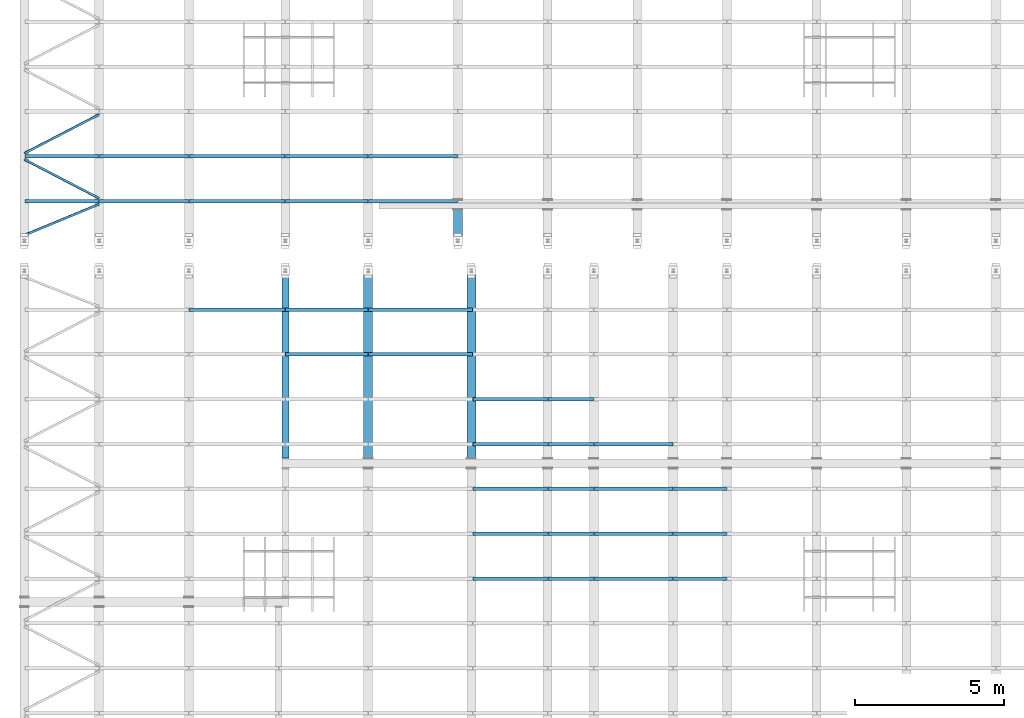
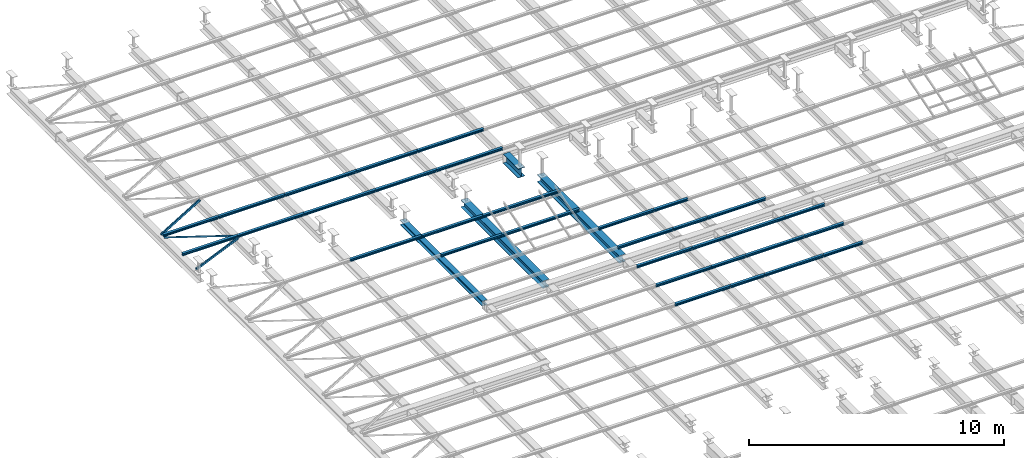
# One storey, part 55 of 139: 39 beams.
"""IFC2X3 building model written with IfcOpenShell, lengths in metres."""

import ifcopenshell
import ifcopenshell.guid

model = None  # the IFC model being written
_history = None  # IfcOwnerHistory: only IFC2X3 demands one
_inside = {}  # id of a spatial element -> (the spatial element, [elements in it])
_under = {}  # id of a project, library or spatial element -> (it, [spatial elements below it])
_declared = {}  # id of a project -> (the project, [libraries it declares])
_typed = {}  # id of a type object -> (the type object, [elements of that type])
_made_of = {}  # id of a material, layer set ... -> (it, [elements and type objects made of it])


def new_model(schema):
    """Start an empty IFC model of exactly this schema.

    Asked for "IFC4X3", IfcOpenShell would pick the latest addendum, in which some entities
    have other attributes; the version numbers below select the first issue.
    IFC2X3 requires an IfcOwnerHistory on every rooted entity: one is made here for all.
    """
    global model, _history
    if schema == "IFC4X3":
        model = ifcopenshell.file(schema_version=(4, 3, 0, 0))
    else:
        model = ifcopenshell.file(schema=schema)
    _inside.clear()
    _under.clear()
    _declared.clear()
    _typed.clear()
    _made_of.clear()
    _history = None
    if model.schema == "IFC2X3":
        org = make("IfcOrganization", Name="unknown")
        user = make(
            "IfcPersonAndOrganization",
            ThePerson=make("IfcPerson", FamilyName="unknown"),
            TheOrganization=org,
        )
        app = make(
            "IfcApplication",
            ApplicationDeveloper=org,
            Version="unknown",
            ApplicationFullName="unknown",
            ApplicationIdentifier="unknown",
        )
        _history = make(
            "IfcOwnerHistory",
            OwningUser=user,
            OwningApplication=app,
            ChangeAction="ADDED",
            CreationDate=0,
        )
    return model


def make(cls, **values):
    """One entity of the class cls with the attributes given. An attribute that is None is left unset."""
    return model.create_entity(
        cls, **{name: value for name, value in values.items() if value is not None}
    )


def entity(cls, *values):
    """Any entity or typed value of the class cls, its attributes in the order of the schema. None: left unset."""
    e = model.create_entity(cls)
    for i, value in enumerate(values):
        if value is not None:
            e[i] = value
    return e


def rooted(cls, **values):
    """An entity with a GlobalId (a new one), such as an element, a storey or a relation."""
    return make(cls, GlobalId=ifcopenshell.guid.new(), OwnerHistory=_history, **values)


def si_unit(unit_type, name, prefix=None):
    """IfcSIUnit, for example si_unit("LENGTHUNIT", "METRE", prefix="MILLI")."""
    return make("IfcSIUnit", UnitType=unit_type, Prefix=prefix, Name=name)


def converted_unit(unit_type, name, factor, base, dimensions=None, offset=None):
    """IfcConversionBasedUnit, such as the inch: factor (a typed value) times the base unit."""
    return make(
        "IfcConversionBasedUnit"
        if offset is None
        else "IfcConversionBasedUnitWithOffset",
        ConversionOffset=offset,
        Dimensions=None
        if dimensions is None
        else entity("IfcDimensionalExponents", *dimensions),
        UnitType=unit_type,
        Name=name,
        ConversionFactor=make(
            "IfcMeasureWithUnit", ValueComponent=factor, UnitComponent=base
        ),
    )


def derived_unit(unit_type, elements):
    """IfcDerivedUnit: a product of units, each with its exponent."""
    return make(
        "IfcDerivedUnit",
        Elements=[
            make("IfcDerivedUnitElement", Unit=unit, Exponent=power)
            for unit, power in elements
        ],
        UnitType=unit_type,
    )


def assignment(units):
    """IfcUnitAssignment: the units of a project."""
    return None if units is None else make("IfcUnitAssignment", Units=units)


def point(xyz):
    """IfcCartesianPoint."""
    return None if xyz is None else make("IfcCartesianPoint", Coordinates=xyz)


def direction(xyz):
    """IfcDirection."""
    return None if xyz is None else make("IfcDirection", DirectionRatios=xyz)


def frame(location, z_axis=None, x_axis=None):
    """IfcAxis2Placement3D, a coordinate frame: its origin and axes. An axis left out is left unset."""
    return make(
        "IfcAxis2Placement3D",
        Location=point(location),
        Axis=direction(z_axis),
        RefDirection=direction(x_axis),
    )


def origin():
    """The frame at (0, 0, 0) with its axes left unset."""
    return frame((0.0, 0.0, 0.0))


def place(relative_to, where):
    """IfcLocalPlacement: puts the frame where relative to a parent placement (None: the world)."""
    return make(
        "IfcLocalPlacement", PlacementRelTo=relative_to, RelativePlacement=where
    )


def context(
    kind, dimensions, precision=None, world=None, true_north=None, identifier=None
):
    """IfcGeometricRepresentationContext, for example the 3D "Model" context."""
    return make(
        "IfcGeometricRepresentationContext",
        ContextIdentifier=identifier,
        ContextType=kind,
        CoordinateSpaceDimension=dimensions,
        Precision=precision,
        WorldCoordinateSystem=world,
        TrueNorth=true_north,
    )


def subcontext(parent, identifier, kind, view, scale=None):
    """IfcGeometricRepresentationSubContext, for example "Body" below "Model"."""
    return make(
        "IfcGeometricRepresentationSubContext",
        ContextIdentifier=identifier,
        ContextType=kind,
        ParentContext=parent,
        TargetScale=scale,
        TargetView=view,
    )


def project(units=None, contexts=None):
    """IfcProject with its units and contexts."""
    return rooted(
        "IfcProject",
        Name="project",
        RepresentationContexts=contexts,
        UnitsInContext=assignment(units),
    )


def spatial(cls, under=None, at=None, **own):
    """A site, building, storey or space (cls), placed at a placement, below another one or the project."""
    s = rooted(cls, ObjectPlacement=at, **own)
    if under is not None:
        _under.setdefault(under.id(), (under, []))[1].append(s)
    return s


def polyline(points):
    """IfcPolyline through the points."""
    return make("IfcPolyline", Points=[point(p) for p in points])


def outline(outer, holes=None, kind="AREA"):
    """IfcArbitraryClosedProfileDef: a profile drawn as a closed curve; with holes, ...WithVoids."""
    if holes is None:
        return make("IfcArbitraryClosedProfileDef", ProfileType=kind, OuterCurve=outer)
    return make(
        "IfcArbitraryProfileDefWithVoids",
        ProfileType=kind,
        OuterCurve=outer,
        InnerCurves=holes,
    )


def extrude(swept, where, along, depth):
    """IfcExtrudedAreaSolid: the profile swept, set in the frame where, extruded along a direction by depth."""
    return make(
        "IfcExtrudedAreaSolid",
        SweptArea=swept,
        Position=where,
        ExtrudedDirection=direction(along),
        Depth=depth,
    )


def shape(context_of_items, identifier, shape_type, items):
    """IfcShapeRepresentation: the items that make up one representation, for example the "Body"."""
    return make(
        "IfcShapeRepresentation",
        ContextOfItems=context_of_items,
        RepresentationIdentifier=identifier,
        RepresentationType=shape_type,
        Items=items,
    )


def material(Name=None, Category=None):
    """IfcMaterial."""
    return make("IfcMaterial", Name=Name, Category=Category)


def made_of(thing, what):
    """Note that an element or type object is made of a material, layer set ...; save() writes the relation."""
    if what is not None:
        _made_of.setdefault(what.id(), (what, []))[1].append(thing)
    return thing


def element(
    cls,
    number,
    at=None,
    inside=None,
    cuts=None,
    type_object=None,
    material=None,
    context=None,
    identifier="Body",
    shape_type=None,
    held_by="IfcProductDefinitionShape",
    body=None,
    shapes=None,
    **own,
):
    """One element of the class cls, such as IfcWall. Its Tag is "e" and its number.

    at: its placement. inside: the storey or other place that contains it. cuts: it is an
    opening in that element (IfcRelVoidsElement). A single representation is given by context,
    identifier, shape_type and body (its items); several are given by shapes. held_by: the class
    of the entity that holds the representations. save() writes the other relations.
    """
    e = rooted(cls, Tag="e%d" % number, ObjectPlacement=at, **own)
    if body is not None:
        shapes = [shape(context, identifier, shape_type, body)]
    if shapes is not None:
        e.Representation = make(held_by, Representations=shapes)
    if inside is not None:
        _inside.setdefault(inside.id(), (inside, []))[1].append(e)
    if cuts is not None:
        rooted(
            "IfcRelVoidsElement", RelatingBuildingElement=cuts, RelatedOpeningElement=e
        )
    if type_object is not None:
        _typed.setdefault(type_object.id(), (type_object, []))[1].append(e)
    return made_of(e, material)


def aggregate(whole, parts):
    """IfcRelAggregates: a whole, such as a stair, and the parts it consists of."""
    return rooted("IfcRelAggregates", RelatingObject=whole, RelatedObjects=parts)


def save(model, path):
    """Write the relations noted so far, then the file.

    IfcRelAggregates (storeys below a building ...), IfcRelContainedInSpatialStructure (elements
    in a storey), IfcRelDefinesByType, IfcRelAssociatesMaterial and IfcRelDeclares: one each for
    every whole, place, type object, material and project.
    """
    for whole, parts in _under.values():
        aggregate(whole, parts)
    for where, things in _inside.values():
        rooted(
            "IfcRelContainedInSpatialStructure",
            RelatedElements=things,
            RelatingStructure=where,
        )
    for kind, things in _typed.values():
        rooted("IfcRelDefinesByType", RelatedObjects=things, RelatingType=kind)
    for what, things in _made_of.values():
        rooted("IfcRelAssociatesMaterial", RelatedObjects=things, RelatingMaterial=what)
    for by, libraries in _declared.values():
        rooted("IfcRelDeclares", RelatingContext=by, RelatedDefinitions=libraries)
    model.write(path)


model = new_model("IFC2X3")

# Units and contexts
model_context = context("Model", 3, precision=1e-05, world=origin())
body_context = subcontext(model_context, "Body", "Model", "MODEL_VIEW")
ifc_project = project(units=[si_unit("LENGTHUNIT", "METRE"), si_unit("AREAUNIT", "SQUARE_METRE"), si_unit("VOLUMEUNIT", "CUBIC_METRE"), si_unit("MASSUNIT", "GRAM", prefix="KILO"), converted_unit("PLANEANGLEUNIT", "DEGREE", entity("IfcPlaneAngleMeasure", 0.0174532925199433), si_unit("PLANEANGLEUNIT", "RADIAN"), dimensions=[0, 0, 0, 0, 0, 0, 0]), derived_unit("THERMALTRANSMITTANCEUNIT", [(si_unit("POWERUNIT", "WATT"), 1), (si_unit("THERMODYNAMICTEMPERATUREUNIT", "KELVIN"), -1), (si_unit("LENGTHUNIT", "METRE"), -2)]), derived_unit("VOLUMETRICFLOWRATEUNIT", [(si_unit("LENGTHUNIT", "METRE"), 3), (converted_unit("TIMEUNIT", "hour", entity("IfcTimeMeasure", 3600.0), si_unit("TIMEUNIT", "SECOND"), dimensions=[0, 0, 1, 0, 0, 0, 0]), -1), (si_unit("LENGTHUNIT", "METRE"), -1)])], contexts=[model_context])

# Site, building, storey
site_placement = place(None, origin())
site = spatial("IfcSite", under=ifc_project, at=site_placement, Name="TWP_Speiseverteilzentrum SBW VZ II", CompositionType="ELEMENT")
building_placement = place(site_placement, origin())
building = spatial("IfcBuilding", under=site, at=building_placement, Name="Speiseverteilzentrum SBW VZ II", CompositionType="ELEMENT")
storey_placement = place(building_placement, frame((0.0, 0.0, 7.1307)))
storey = spatial("IfcBuildingStorey", under=building, at=storey_placement, Name="Wartung_FFB", CompositionType="ELEMENT", Elevation=7.1307)

# Beams
ifc_material_1 = material(Name="S235")
beam_1_placement = place(storey_placement, frame((25.0500000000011, 70.7522526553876, -0.41), z_axis=(0.0, 0.0, 1.0), x_axis=(1.0, -2.44929359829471e-16, 0.0)))
element("IfcBeam", 1, at=beam_1_placement, inside=storey, material=ifc_material_1, Name="Stahlträger", context=body_context, shape_type="SweptSolid", body=[
    extrude(outline(polyline([(-0.15, 0.22), (-0.15, 0.199), (-0.00574999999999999, 0.199), (-0.00575000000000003, -0.199), (-0.15, -0.199), (-0.15, -0.22), (0.15, -0.22), (0.15, -0.199), (0.00574999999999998, -0.199), (0.00575000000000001, 0.199), (0.15, 0.199), (0.15, 0.22), (-0.15, 0.22)])), frame((0.0, 0.0, 0.0), z_axis=(0.0, 1.0, 0.0), x_axis=(-1.0, 0.0, 0.0)), (0.0, 0.0, 1.0), 1.18224885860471),
])
ifc_material_2 = material(Name="S235")
beam_2_placement = place(storey_placement, frame((22.0500000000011, 70.0522526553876, -0.365), z_axis=(0.0, 0.0, 1.0), x_axis=(-1.0, 0.0, 0.0)))
element("IfcBeam", 2, at=beam_2_placement, inside=storey, material=ifc_material_2, Name="Stahlträger", context=body_context, shape_type="SweptSolid", body=[
    extrude(outline(polyline([(-0.15, 0.175), (-0.15, 0.1575), (-0.00500000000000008, 0.1575), (-0.0050000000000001, -0.1575), (-0.15, -0.1575), (-0.15, -0.175), (0.15, -0.175), (0.15, -0.1575), (0.0049999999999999, -0.1575), (0.00499999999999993, 0.1575), (0.15, 0.1575), (0.15, 0.175), (-0.15, 0.175)])), frame((0.0, 0.0, 0.0), z_axis=(0.0, 1.0, 0.0), x_axis=(-1.0, 0.0, 0.0)), (0.0, 0.0, 1.0), 6.41975940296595),
])
ifc_material_3 = material(Name="S235")
beam_3_placement = place(storey_placement, frame((25.5025522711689, 70.0522526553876, -0.365), z_axis=(0.0, 0.0, 1.0), x_axis=(-1.0, 0.0, 0.0)))
element("IfcBeam", 3, at=beam_3_placement, inside=storey, material=ifc_material_3, Name="Stahlträger", context=body_context, shape_type="SweptSolid", body=[
    extrude(outline(polyline([(-0.15, 0.175), (-0.15, 0.1575), (-0.00500000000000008, 0.1575), (-0.0050000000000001, -0.1575), (-0.15, -0.1575), (-0.15, -0.175), (0.15, -0.175), (0.15, -0.1575), (0.0049999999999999, -0.1575), (0.00499999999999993, 0.1575), (0.15, 0.1575), (0.15, 0.175), (-0.15, 0.175)])), frame((0.0, 0.0, 0.0), z_axis=(0.0, 1.0, 0.0), x_axis=(-1.0, 0.0, 0.0)), (0.0, 0.0, 1.0), 6.41975940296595),
])
ifc_material_4 = material(Name="S235")
beam_4_placement = place(storey_placement, frame((19.2800000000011, 70.0522526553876, -0.305), z_axis=(0.0, 0.0, 1.0), x_axis=(-1.0, 0.0, 0.0)))
element("IfcBeam", 4, at=beam_4_placement, inside=storey, material=ifc_material_4, Name="Stahlträger", context=body_context, shape_type="SweptSolid", body=[
    extrude(outline(polyline([(-0.12, 0.115), (-0.12, 0.103), (-0.00375000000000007, 0.103), (-0.00375000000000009, -0.103), (-0.12, -0.103), (-0.12, -0.115), (0.12, -0.115), (0.12, -0.103), (0.00374999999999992, -0.103), (0.00374999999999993, 0.103), (0.12, 0.103), (0.12, 0.115), (-0.12, 0.115)])), frame((0.0, 0.0, 0.0), z_axis=(0.0, 1.0, 0.0), x_axis=(-1.0, 0.0, 0.0)), (0.0, 0.0, 1.0), 6.41975940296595),
])
ifc_material_5 = material(Name="S235")
beam_5_placement = place(storey_placement, frame((13.0600000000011, 73.7261263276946, -0.133), z_axis=(0.0, 0.0, 1.0), x_axis=(0.0, -1.0, 0.0)))
element("IfcBeam", 5, at=beam_5_placement, inside=storey, material=ifc_material_5, Name="Nebenträger", context=body_context, shape_type="SweptSolid", body=[
    extrude(outline(polyline([(-0.06, 0.0570000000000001), (-0.06, 0.0490000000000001), (-0.00249999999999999, 0.0490000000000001), (-0.0025, -0.0489999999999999), (-0.06, -0.0489999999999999), (-0.06, -0.0569999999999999), (0.06, -0.0569999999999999), (0.06, -0.0489999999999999), (0.0025, -0.0489999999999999), (0.00250000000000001, 0.0490000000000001), (0.06, 0.0490000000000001), (0.06, 0.0570000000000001), (-0.06, 0.0570000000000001)])), frame((0.0, 0.0, 0.0), z_axis=(0.0, 1.0, 0.0), x_axis=(-1.0, 0.0, 0.0)), (0.0, 0.0, 1.0), 2.98),
])
ifc_material_6 = material(Name="S235")
beam_6_placement = place(storey_placement, frame((22.0600000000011, 73.7261263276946, -0.133), z_axis=(0.0, 0.0, 1.0), x_axis=(0.0, -1.0, 0.0)))
element("IfcBeam", 6, at=beam_6_placement, inside=storey, material=ifc_material_6, Name="Nebenträger", context=body_context, shape_type="SweptSolid", body=[
    extrude(outline(polyline([(-0.06, 0.0570000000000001), (-0.06, 0.0490000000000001), (-0.00249999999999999, 0.0490000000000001), (-0.0025, -0.0489999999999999), (-0.06, -0.0489999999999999), (-0.06, -0.0569999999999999), (0.06, -0.0569999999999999), (0.06, -0.0489999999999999), (0.0025, -0.0489999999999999), (0.00250000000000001, 0.0490000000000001), (0.06, 0.0490000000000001), (0.06, 0.0570000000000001), (-0.06, 0.0570000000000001)])), frame((0.0, 0.0, 0.0), z_axis=(0.0, 1.0, 0.0), x_axis=(-1.0, 0.0, 0.0)), (0.0, 0.0, 1.0), 2.98),
])
ifc_material_7 = material(Name="S235")
beam_7_placement = place(storey_placement, frame((10.5600000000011, 73.7261263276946, -0.133), z_axis=(0.0, 0.0, 1.0), x_axis=(0.0, -1.0, 0.0)))
element("IfcBeam", 7, at=beam_7_placement, inside=storey, material=ifc_material_7, Name="Nebenträger", context=body_context, shape_type="SweptSolid", body=[
    extrude(outline(polyline([(-0.06, 0.0570000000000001), (-0.06, 0.0490000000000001), (-0.00249999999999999, 0.0490000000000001), (-0.0025, -0.0489999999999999), (-0.06, -0.0489999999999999), (-0.06, -0.0569999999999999), (0.06, -0.0569999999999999), (0.06, -0.0489999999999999), (0.0025, -0.0489999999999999), (0.00250000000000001, 0.0490000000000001), (0.06, 0.0490000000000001), (0.06, 0.0570000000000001), (-0.06, 0.0570000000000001)])), frame((0.0, 0.0, 0.0), z_axis=(0.0, 1.0, 0.0), x_axis=(-1.0, 0.0, 0.0)), (0.0, 0.0, 1.0), 2.48000000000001),
])
ifc_material_8 = material(Name="S235")
beam_8_placement = place(storey_placement, frame((13.0600000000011, 72.2261263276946, -0.133), z_axis=(0.0, 0.0, 1.0), x_axis=(0.0, -1.0, 0.0)))
element("IfcBeam", 8, at=beam_8_placement, inside=storey, material=ifc_material_8, Name="Nebenträger", context=body_context, shape_type="SweptSolid", body=[
    extrude(outline(polyline([(-0.06, 0.0570000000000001), (-0.06, 0.0490000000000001), (-0.00249999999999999, 0.0490000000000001), (-0.0025, -0.0489999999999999), (-0.06, -0.0489999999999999), (-0.06, -0.0569999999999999), (0.06, -0.0569999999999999), (0.06, -0.0489999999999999), (0.0025, -0.0489999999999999), (0.00250000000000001, 0.0490000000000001), (0.06, 0.0490000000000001), (0.06, 0.0570000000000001), (-0.06, 0.0570000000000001)])), frame((0.0, 0.0, 0.0), z_axis=(0.0, 1.0, 0.0), x_axis=(-1.0, 0.0, 0.0)), (0.0, 0.0, 1.0), 2.98),
])
ifc_material_9 = material(Name="S235")
beam_9_placement = place(storey_placement, frame((22.0600000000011, 72.2261263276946, -0.133), z_axis=(0.0, 0.0, 1.0), x_axis=(0.0, -1.0, 0.0)))
element("IfcBeam", 9, at=beam_9_placement, inside=storey, material=ifc_material_9, Name="Nebenträger", context=body_context, shape_type="SweptSolid", body=[
    extrude(outline(polyline([(-0.06, 0.0570000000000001), (-0.06, 0.0490000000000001), (-0.00249999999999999, 0.0490000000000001), (-0.0025, -0.0489999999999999), (-0.06, -0.0489999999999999), (-0.06, -0.0569999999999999), (0.06, -0.0569999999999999), (0.06, -0.0489999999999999), (0.0025, -0.0489999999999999), (0.00250000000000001, 0.0490000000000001), (0.06, 0.0490000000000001), (0.06, 0.0570000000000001), (-0.06, 0.0570000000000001)])), frame((0.0, 0.0, 0.0), z_axis=(0.0, 1.0, 0.0), x_axis=(-1.0, 0.0, 0.0)), (0.0, 0.0, 1.0), 2.98),
])
ifc_material_10 = material(Name="S235")
beam_10_placement = place(storey_placement, frame((10.5600000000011, 72.2261263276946, -0.133), z_axis=(0.0, 0.0, 1.0), x_axis=(0.0, -1.0, 0.0)))
element("IfcBeam", 10, at=beam_10_placement, inside=storey, material=ifc_material_10, Name="Nebenträger", context=body_context, shape_type="SweptSolid", body=[
    extrude(outline(polyline([(-0.06, 0.0570000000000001), (-0.06, 0.0490000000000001), (-0.00249999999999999, 0.0490000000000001), (-0.0025, -0.0489999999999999), (-0.06, -0.0489999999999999), (-0.06, -0.0569999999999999), (0.06, -0.0569999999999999), (0.06, -0.0489999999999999), (0.0025, -0.0489999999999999), (0.00250000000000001, 0.0490000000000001), (0.06, 0.0490000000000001), (0.06, 0.0570000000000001), (-0.06, 0.0570000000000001)])), frame((0.0, 0.0, 0.0), z_axis=(0.0, 1.0, 0.0), x_axis=(-1.0, 0.0, 0.0)), (0.0, 0.0, 1.0), 2.48000000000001),
])
ifc_material_11 = material(Name="S235")
beam_11_placement = place(storey_placement, frame((22.0600000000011, 68.6011263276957, -0.133), z_axis=(0.0, 0.0, 1.0), x_axis=(0.0, -1.0, 0.0)))
element("IfcBeam", 11, at=beam_11_placement, inside=storey, material=ifc_material_11, Name="Nebenträger", context=body_context, shape_type="SweptSolid", body=[
    extrude(outline(polyline([(-0.06, 0.0570000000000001), (-0.06, 0.0490000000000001), (-0.00249999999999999, 0.0490000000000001), (-0.0025, -0.0489999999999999), (-0.06, -0.0489999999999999), (-0.06, -0.0569999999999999), (0.06, -0.0569999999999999), (0.06, -0.0489999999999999), (0.0025, -0.0489999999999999), (0.00250000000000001, 0.0490000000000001), (0.06, 0.0490000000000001), (0.06, 0.0570000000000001), (-0.06, 0.0570000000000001)])), frame((0.0, 0.0, 0.0), z_axis=(0.0, 1.0, 0.0), x_axis=(-1.0, 0.0, 0.0)), (0.0, 0.0, 1.0), 3.48),
])
ifc_material_12 = material(Name="S235")
beam_12_placement = place(storey_placement, frame((22.0600000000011, 67.1011263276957, -0.133), z_axis=(0.0, 0.0, 1.0), x_axis=(0.0, -1.0, 0.0)))
element("IfcBeam", 12, at=beam_12_placement, inside=storey, material=ifc_material_12, Name="Nebenträger", context=body_context, shape_type="SweptSolid", body=[
    extrude(outline(polyline([(-0.06, 0.0570000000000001), (-0.06, 0.0490000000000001), (-0.00249999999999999, 0.0490000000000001), (-0.0025, -0.0489999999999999), (-0.06, -0.0489999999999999), (-0.06, -0.0569999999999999), (0.06, -0.0569999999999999), (0.06, -0.0489999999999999), (0.0025, -0.0489999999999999), (0.00250000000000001, 0.0490000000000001), (0.06, 0.0490000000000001), (0.06, 0.0570000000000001), (-0.06, 0.0570000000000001)])), frame((0.0, 0.0, 0.0), z_axis=(0.0, 1.0, 0.0), x_axis=(-1.0, 0.0, 0.0)), (0.0, 0.0, 1.0), 3.48),
])
ifc_material_13 = material(Name="S235")
beam_13_placement = place(storey_placement, frame((25.5600000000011, 65.6011263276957, -0.133), z_axis=(0.0, 0.0, 1.0), x_axis=(0.0, -1.0, 0.0)))
element("IfcBeam", 13, at=beam_13_placement, inside=storey, material=ifc_material_13, Name="Nebenträger", context=body_context, shape_type="SweptSolid", body=[
    extrude(outline(polyline([(-0.06, 0.0570000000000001), (-0.06, 0.0490000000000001), (-0.00249999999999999, 0.0490000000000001), (-0.0025, -0.0489999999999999), (-0.06, -0.0489999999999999), (-0.06, -0.0569999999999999), (0.06, -0.0569999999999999), (0.06, -0.0489999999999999), (0.0025, -0.0489999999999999), (0.00250000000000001, 0.0490000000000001), (0.06, 0.0490000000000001), (0.06, 0.0570000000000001), (-0.06, 0.0570000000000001)])), frame((0.0, 0.0, 0.0), z_axis=(0.0, 1.0, 0.0), x_axis=(-1.0, 0.0, 0.0)), (0.0, 0.0, 1.0), 2.48),
])
ifc_material_14 = material(Name="S235")
beam_14_placement = place(storey_placement, frame((25.5600000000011, 64.1011263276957, -0.133), z_axis=(0.0, 0.0, 1.0), x_axis=(0.0, -1.0, 0.0)))
element("IfcBeam", 14, at=beam_14_placement, inside=storey, material=ifc_material_14, Name="Nebenträger", context=body_context, shape_type="SweptSolid", body=[
    extrude(outline(polyline([(-0.06, 0.0570000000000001), (-0.06, 0.0490000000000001), (-0.00249999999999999, 0.0490000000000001), (-0.0025, -0.0489999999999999), (-0.06, -0.0489999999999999), (-0.06, -0.0569999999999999), (0.06, -0.0569999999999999), (0.06, -0.0489999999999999), (0.0025, -0.0489999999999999), (0.00250000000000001, 0.0490000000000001), (0.06, 0.0490000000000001), (0.06, 0.0570000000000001), (-0.06, 0.0570000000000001)])), frame((0.0, 0.0, 0.0), z_axis=(0.0, 1.0, 0.0), x_axis=(-1.0, 0.0, 0.0)), (0.0, 0.0, 1.0), 2.48),
])
ifc_material_15 = material(Name="S235")
beam_15_placement = place(storey_placement, frame((25.5600000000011, 62.6011263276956, -0.133), z_axis=(0.0, 0.0, 1.0), x_axis=(0.0, -1.0, 0.0)))
element("IfcBeam", 15, at=beam_15_placement, inside=storey, material=ifc_material_15, Name="Nebenträger", context=body_context, shape_type="SweptSolid", body=[
    extrude(outline(polyline([(-0.06, 0.0570000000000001), (-0.06, 0.0490000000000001), (-0.00249999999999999, 0.0490000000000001), (-0.0025, -0.0489999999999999), (-0.06, -0.0489999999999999), (-0.06, -0.0569999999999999), (0.06, -0.0569999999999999), (0.06, -0.0489999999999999), (0.0025, -0.0489999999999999), (0.00250000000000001, 0.0490000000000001), (0.06, 0.0490000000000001), (0.06, 0.0570000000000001), (-0.06, 0.0570000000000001)])), frame((0.0, 0.0, 0.0), z_axis=(0.0, 1.0, 0.0), x_axis=(-1.0, 0.0, 0.0)), (0.0, 0.0, 1.0), 2.48),
])
ifc_material_16 = material(Name="S235")
beam_16_placement = place(storey_placement, frame((25.5600000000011, 61.1011263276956, -0.133), z_axis=(0.0, 0.0, 1.0), x_axis=(0.0, -1.0, 0.0)))
element("IfcBeam", 16, at=beam_16_placement, inside=storey, material=ifc_material_16, Name="Nebenträger", context=body_context, shape_type="SweptSolid", body=[
    extrude(outline(polyline([(-0.06, 0.0570000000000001), (-0.06, 0.0490000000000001), (-0.00249999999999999, 0.0490000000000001), (-0.0025, -0.0489999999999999), (-0.06, -0.0489999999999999), (-0.06, -0.0569999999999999), (0.06, -0.0569999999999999), (0.06, -0.0489999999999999), (0.0025, -0.0489999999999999), (0.00250000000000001, 0.0490000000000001), (0.06, 0.0490000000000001), (0.06, 0.0570000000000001), (-0.06, 0.0570000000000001)])), frame((0.0, 0.0, 0.0), z_axis=(0.0, 1.0, 0.0), x_axis=(-1.0, 0.0, 0.0)), (0.0, 0.0, 1.0), 2.48),
])
ifc_material_17 = material(Name="S235")
beam_17_placement = place(storey_placement, frame((25.5600000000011, 59.6011263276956, -0.133), z_axis=(0.0, 0.0, 1.0), x_axis=(0.0, -1.0, 0.0)))
element("IfcBeam", 17, at=beam_17_placement, inside=storey, material=ifc_material_17, Name="Nebenträger", context=body_context, shape_type="SweptSolid", body=[
    extrude(outline(polyline([(-0.06, 0.0570000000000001), (-0.06, 0.0490000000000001), (-0.00249999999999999, 0.0490000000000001), (-0.0025, -0.0489999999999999), (-0.06, -0.0489999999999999), (-0.06, -0.0569999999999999), (0.06, -0.0569999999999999), (0.06, -0.0489999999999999), (0.0025, -0.0489999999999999), (0.00250000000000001, 0.0490000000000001), (0.06, 0.0490000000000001), (0.06, 0.0570000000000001), (-0.06, 0.0570000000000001)])), frame((0.0, 0.0, 0.0), z_axis=(0.0, 1.0, 0.0), x_axis=(-1.0, 0.0, 0.0)), (0.0, 0.0, 1.0), 2.48),
])
ifc_material_18 = material(Name="S235")
beam_18_placement = place(storey_placement, frame((28.0600000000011, 65.6011263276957, -0.133), z_axis=(0.0, 0.0, 1.0), x_axis=(0.0, -1.0, 0.0)))
element("IfcBeam", 18, at=beam_18_placement, inside=storey, material=ifc_material_18, Name="Nebenträger", context=body_context, shape_type="SweptSolid", body=[
    extrude(outline(polyline([(-0.06, 0.0570000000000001), (-0.06, 0.0490000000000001), (-0.00249999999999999, 0.0490000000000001), (-0.0025, -0.0489999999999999), (-0.06, -0.0489999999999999), (-0.06, -0.0569999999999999), (0.06, -0.0569999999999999), (0.06, -0.0489999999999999), (0.0025, -0.0489999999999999), (0.00250000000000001, 0.0490000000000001), (0.06, 0.0490000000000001), (0.06, 0.0570000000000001), (-0.06, 0.0570000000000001)])), frame((0.0, 0.0, 0.0), z_axis=(0.0, 1.0, 0.0), x_axis=(-1.0, 0.0, 0.0)), (0.0, 0.0, 1.0), 1.52999999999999),
])
ifc_material_19 = material(Name="S235")
beam_19_placement = place(storey_placement, frame((28.0600000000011, 64.1011263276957, -0.133), z_axis=(0.0, 0.0, 1.0), x_axis=(0.0, -1.0, 0.0)))
element("IfcBeam", 19, at=beam_19_placement, inside=storey, material=ifc_material_19, Name="Nebenträger", context=body_context, shape_type="SweptSolid", body=[
    extrude(outline(polyline([(-0.06, 0.0570000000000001), (-0.06, 0.0490000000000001), (-0.00249999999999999, 0.0490000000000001), (-0.0025, -0.0489999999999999), (-0.06, -0.0489999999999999), (-0.06, -0.0569999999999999), (0.06, -0.0569999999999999), (0.06, -0.0489999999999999), (0.0025, -0.0489999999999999), (0.00250000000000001, 0.0490000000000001), (0.06, 0.0490000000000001), (0.06, 0.0570000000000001), (-0.06, 0.0570000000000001)])), frame((0.0, 0.0, 0.0), z_axis=(0.0, 1.0, 0.0), x_axis=(-1.0, 0.0, 0.0)), (0.0, 0.0, 1.0), 1.52999999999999),
])
ifc_material_20 = material(Name="S235")
beam_20_placement = place(storey_placement, frame((28.0600000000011, 62.6011263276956, -0.133), z_axis=(0.0, 0.0, 1.0), x_axis=(0.0, -1.0, 0.0)))
element("IfcBeam", 20, at=beam_20_placement, inside=storey, material=ifc_material_20, Name="Nebenträger", context=body_context, shape_type="SweptSolid", body=[
    extrude(outline(polyline([(-0.06, 0.0570000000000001), (-0.06, 0.0490000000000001), (-0.00249999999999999, 0.0490000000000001), (-0.0025, -0.0489999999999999), (-0.06, -0.0489999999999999), (-0.06, -0.0569999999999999), (0.06, -0.0569999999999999), (0.06, -0.0489999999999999), (0.0025, -0.0489999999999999), (0.00250000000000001, 0.0490000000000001), (0.06, 0.0490000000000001), (0.06, 0.0570000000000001), (-0.06, 0.0570000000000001)])), frame((0.0, 0.0, 0.0), z_axis=(0.0, 1.0, 0.0), x_axis=(-1.0, 0.0, 0.0)), (0.0, 0.0, 1.0), 1.52999999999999),
])
ifc_material_21 = material(Name="S235")
beam_21_placement = place(storey_placement, frame((28.0600000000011, 61.1011263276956, -0.133), z_axis=(0.0, 0.0, 1.0), x_axis=(0.0, -1.0, 0.0)))
element("IfcBeam", 21, at=beam_21_placement, inside=storey, material=ifc_material_21, Name="Nebenträger", context=body_context, shape_type="SweptSolid", body=[
    extrude(outline(polyline([(-0.06, 0.0570000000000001), (-0.06, 0.0490000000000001), (-0.00249999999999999, 0.0490000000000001), (-0.0025, -0.0489999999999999), (-0.06, -0.0489999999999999), (-0.06, -0.0569999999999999), (0.06, -0.0569999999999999), (0.06, -0.0489999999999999), (0.0025, -0.0489999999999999), (0.00250000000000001, 0.0490000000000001), (0.06, 0.0490000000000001), (0.06, 0.0570000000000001), (-0.06, 0.0570000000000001)])), frame((0.0, 0.0, 0.0), z_axis=(0.0, 1.0, 0.0), x_axis=(-1.0, 0.0, 0.0)), (0.0, 0.0, 1.0), 1.52999999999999),
])
ifc_material_22 = material(Name="S235")
beam_22_placement = place(storey_placement, frame((28.0600000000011, 59.6011263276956, -0.133), z_axis=(0.0, 0.0, 1.0), x_axis=(0.0, -1.0, 0.0)))
element("IfcBeam", 22, at=beam_22_placement, inside=storey, material=ifc_material_22, Name="Nebenträger", context=body_context, shape_type="SweptSolid", body=[
    extrude(outline(polyline([(-0.06, 0.0570000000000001), (-0.06, 0.0490000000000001), (-0.00249999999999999, 0.0490000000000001), (-0.0025, -0.0489999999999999), (-0.06, -0.0489999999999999), (-0.06, -0.0569999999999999), (0.06, -0.0569999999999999), (0.06, -0.0489999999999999), (0.0025, -0.0489999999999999), (0.00250000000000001, 0.0490000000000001), (0.06, 0.0490000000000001), (0.06, 0.0570000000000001), (-0.06, 0.0570000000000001)])), frame((0.0, 0.0, 0.0), z_axis=(0.0, 1.0, 0.0), x_axis=(-1.0, 0.0, 0.0)), (0.0, 0.0, 1.0), 1.52999999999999),
])
ifc_material_23 = material(Name="S235")
beam_23_placement = place(storey_placement, frame((29.6100000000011, 64.1011263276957, -0.133), z_axis=(0.0, 0.0, 1.0), x_axis=(0.0, -1.0, 0.0)))
element("IfcBeam", 23, at=beam_23_placement, inside=storey, material=ifc_material_23, Name="Nebenträger", context=body_context, shape_type="SweptSolid", body=[
    extrude(outline(polyline([(-0.06, 0.0570000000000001), (-0.06, 0.0490000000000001), (-0.00249999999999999, 0.0490000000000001), (-0.0025, -0.0489999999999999), (-0.06, -0.0489999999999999), (-0.06, -0.0569999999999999), (0.06, -0.0569999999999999), (0.06, -0.0489999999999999), (0.0025, -0.0489999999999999), (0.00250000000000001, 0.0490000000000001), (0.06, 0.0490000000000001), (0.06, 0.0570000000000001), (-0.06, 0.0570000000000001)])), frame((0.0, 0.0, 0.0), z_axis=(0.0, 1.0, 0.0), x_axis=(-1.0, 0.0, 0.0)), (0.0, 0.0, 1.0), 2.63000000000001),
])
ifc_material_24 = material(Name="S235")
beam_24_placement = place(storey_placement, frame((29.6100000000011, 62.6011263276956, -0.133), z_axis=(0.0, 0.0, 1.0), x_axis=(0.0, -1.0, 0.0)))
element("IfcBeam", 24, at=beam_24_placement, inside=storey, material=ifc_material_24, Name="Nebenträger", context=body_context, shape_type="SweptSolid", body=[
    extrude(outline(polyline([(-0.06, 0.0570000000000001), (-0.06, 0.0490000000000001), (-0.00249999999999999, 0.0490000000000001), (-0.0025, -0.0489999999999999), (-0.06, -0.0489999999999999), (-0.06, -0.0569999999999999), (0.06, -0.0569999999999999), (0.06, -0.0489999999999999), (0.0025, -0.0489999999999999), (0.00250000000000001, 0.0490000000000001), (0.06, 0.0490000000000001), (0.06, 0.0570000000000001), (-0.06, 0.0570000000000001)])), frame((0.0, 0.0, 0.0), z_axis=(0.0, 1.0, 0.0), x_axis=(-1.0, 0.0, 0.0)), (0.0, 0.0, 1.0), 2.63000000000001),
])
ifc_material_25 = material(Name="S235")
beam_25_placement = place(storey_placement, frame((29.6100000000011, 61.1011263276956, -0.133), z_axis=(0.0, 0.0, 1.0), x_axis=(0.0, -1.0, 0.0)))
element("IfcBeam", 25, at=beam_25_placement, inside=storey, material=ifc_material_25, Name="Nebenträger", context=body_context, shape_type="SweptSolid", body=[
    extrude(outline(polyline([(-0.06, 0.0570000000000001), (-0.06, 0.0490000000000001), (-0.00249999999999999, 0.0490000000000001), (-0.0025, -0.0489999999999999), (-0.06, -0.0489999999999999), (-0.06, -0.0569999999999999), (0.06, -0.0569999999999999), (0.06, -0.0489999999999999), (0.0025, -0.0489999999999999), (0.00250000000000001, 0.0490000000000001), (0.06, 0.0490000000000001), (0.06, 0.0570000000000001), (-0.06, 0.0570000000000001)])), frame((0.0, 0.0, 0.0), z_axis=(0.0, 1.0, 0.0), x_axis=(-1.0, 0.0, 0.0)), (0.0, 0.0, 1.0), 2.63000000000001),
])
ifc_material_26 = material(Name="S235")
beam_26_placement = place(storey_placement, frame((29.6100000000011, 59.6011263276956, -0.133), z_axis=(0.0, 0.0, 1.0), x_axis=(0.0, -1.0, 0.0)))
element("IfcBeam", 26, at=beam_26_placement, inside=storey, material=ifc_material_26, Name="Nebenträger", context=body_context, shape_type="SweptSolid", body=[
    extrude(outline(polyline([(-0.06, 0.0570000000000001), (-0.06, 0.0490000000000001), (-0.00249999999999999, 0.0490000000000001), (-0.0025, -0.0489999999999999), (-0.06, -0.0489999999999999), (-0.06, -0.0569999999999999), (0.06, -0.0569999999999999), (0.06, -0.0489999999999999), (0.0025, -0.0489999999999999), (0.00250000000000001, 0.0490000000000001), (0.06, 0.0490000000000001), (0.06, 0.0570000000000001), (-0.06, 0.0570000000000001)])), frame((0.0, 0.0, 0.0), z_axis=(0.0, 1.0, 0.0), x_axis=(-1.0, 0.0, 0.0)), (0.0, 0.0, 1.0), 2.63000000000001),
])
ifc_material_27 = material(Name="S235")
beam_27_placement = place(storey_placement, frame((32.2600000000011, 62.6011263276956, -0.133), z_axis=(0.0, 0.0, 1.0), x_axis=(0.0, -1.0, 0.0)))
element("IfcBeam", 27, at=beam_27_placement, inside=storey, material=ifc_material_27, Name="Nebenträger", context=body_context, shape_type="SweptSolid", body=[
    extrude(outline(polyline([(-0.06, 0.0570000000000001), (-0.06, 0.0490000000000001), (-0.00249999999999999, 0.0490000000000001), (-0.0025, -0.0489999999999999), (-0.06, -0.0489999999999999), (-0.06, -0.0569999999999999), (0.06, -0.0569999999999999), (0.06, -0.0489999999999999), (0.0025, -0.0489999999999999), (0.00250000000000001, 0.0490000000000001), (0.06, 0.0490000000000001), (0.06, 0.0570000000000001), (-0.06, 0.0570000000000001)])), frame((0.0, 0.0, 0.0), z_axis=(0.0, 1.0, 0.0), x_axis=(-1.0, 0.0, 0.0)), (0.0, 0.0, 1.0), 1.78),
])
ifc_material_28 = material(Name="S235")
beam_28_placement = place(storey_placement, frame((32.2600000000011, 61.1011263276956, -0.133), z_axis=(0.0, 0.0, 1.0), x_axis=(0.0, -1.0, 0.0)))
element("IfcBeam", 28, at=beam_28_placement, inside=storey, material=ifc_material_28, Name="Nebenträger", context=body_context, shape_type="SweptSolid", body=[
    extrude(outline(polyline([(-0.06, 0.0570000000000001), (-0.06, 0.0490000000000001), (-0.00249999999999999, 0.0490000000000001), (-0.0025, -0.0489999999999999), (-0.06, -0.0489999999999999), (-0.06, -0.0569999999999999), (0.06, -0.0569999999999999), (0.06, -0.0489999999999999), (0.0025, -0.0489999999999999), (0.00250000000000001, 0.0490000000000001), (0.06, 0.0490000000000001), (0.06, 0.0570000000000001), (-0.06, 0.0570000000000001)])), frame((0.0, 0.0, 0.0), z_axis=(0.0, 1.0, 0.0), x_axis=(-1.0, 0.0, 0.0)), (0.0, 0.0, 1.0), 1.78),
])
ifc_material_29 = material(Name="S235")
beam_29_placement = place(storey_placement, frame((32.2600000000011, 59.6011263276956, -0.133), z_axis=(0.0, 0.0, 1.0), x_axis=(0.0, -1.0, 0.0)))
element("IfcBeam", 29, at=beam_29_placement, inside=storey, material=ifc_material_29, Name="Nebenträger", context=body_context, shape_type="SweptSolid", body=[
    extrude(outline(polyline([(-0.06, 0.0570000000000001), (-0.06, 0.0490000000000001), (-0.00249999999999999, 0.0490000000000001), (-0.0025, -0.0489999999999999), (-0.06, -0.0489999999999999), (-0.06, -0.0569999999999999), (0.06, -0.0569999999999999), (0.06, -0.0489999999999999), (0.0025, -0.0489999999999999), (0.00250000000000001, 0.0490000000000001), (0.06, 0.0490000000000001), (0.06, 0.0570000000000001), (-0.06, 0.0570000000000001)])), frame((0.0, 0.0, 0.0), z_axis=(0.0, 1.0, 0.0), x_axis=(-1.0, 0.0, 0.0)), (0.0, 0.0, 1.0), 1.78),
])
ifc_material_30 = material(Name="S235")
beam_30_placement = place(storey_placement, frame((16.0600000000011, 73.7261263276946, -0.133), z_axis=(0.0, 0.0, 1.0), x_axis=(0.0, -1.0, 0.0)))
element("IfcBeam", 30, at=beam_30_placement, inside=storey, material=ifc_material_30, Name="Nebenträger", context=body_context, shape_type="SweptSolid", body=[
    extrude(outline(polyline([(-0.06, 0.0570000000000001), (-0.06, 0.0490000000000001), (-0.00249999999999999, 0.0490000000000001), (-0.0025, -0.0489999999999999), (-0.06, -0.0489999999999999), (-0.06, -0.0569999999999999), (0.06, -0.0569999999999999), (0.06, -0.0489999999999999), (0.0025, -0.0489999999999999), (0.00250000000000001, 0.0490000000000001), (0.06, 0.0490000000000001), (0.06, 0.0570000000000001), (-0.06, 0.0570000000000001)])), frame((0.0, 0.0, 0.0), z_axis=(0.0, 1.0, 0.0), x_axis=(-1.0, 0.0, 0.0)), (0.0, 0.0, 1.0), 3.21),
])
ifc_material_31 = material(Name="S235")
beam_31_placement = place(storey_placement, frame((19.2900000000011, 73.7261263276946, -0.133), z_axis=(0.0, 0.0, 1.0), x_axis=(0.0, -1.0, 0.0)))
element("IfcBeam", 31, at=beam_31_placement, inside=storey, material=ifc_material_31, Name="Nebenträger", context=body_context, shape_type="SweptSolid", body=[
    extrude(outline(polyline([(-0.06, 0.0570000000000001), (-0.06, 0.0490000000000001), (-0.00249999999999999, 0.0490000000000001), (-0.0025, -0.0489999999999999), (-0.06, -0.0489999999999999), (-0.06, -0.0569999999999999), (0.06, -0.0569999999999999), (0.06, -0.0489999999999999), (0.0025, -0.0489999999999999), (0.00250000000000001, 0.0490000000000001), (0.06, 0.0490000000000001), (0.06, 0.0570000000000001), (-0.06, 0.0570000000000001)])), frame((0.0, 0.0, 0.0), z_axis=(0.0, 1.0, 0.0), x_axis=(-1.0, 0.0, 0.0)), (0.0, 0.0, 1.0), 2.75),
])
ifc_material_32 = material(Name="S235")
beam_32_placement = place(storey_placement, frame((16.0600000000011, 72.2261263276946, -0.133), z_axis=(0.0, 0.0, 1.0), x_axis=(0.0, -1.0, 0.0)))
element("IfcBeam", 32, at=beam_32_placement, inside=storey, material=ifc_material_32, Name="Nebenträger", context=body_context, shape_type="SweptSolid", body=[
    extrude(outline(polyline([(-0.06, 0.0570000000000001), (-0.06, 0.0490000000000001), (-0.00249999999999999, 0.0490000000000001), (-0.0025, -0.0489999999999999), (-0.06, -0.0489999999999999), (-0.06, -0.0569999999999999), (0.06, -0.0569999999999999), (0.06, -0.0489999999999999), (0.0025, -0.0489999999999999), (0.00250000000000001, 0.0490000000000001), (0.06, 0.0490000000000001), (0.06, 0.0570000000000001), (-0.06, 0.0570000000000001)])), frame((0.0, 0.0, 0.0), z_axis=(0.0, 1.0, 0.0), x_axis=(-1.0, 0.0, 0.0)), (0.0, 0.0, 1.0), 3.21),
])
ifc_material_33 = material(Name="S235")
beam_33_placement = place(storey_placement, frame((19.2900000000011, 72.2261263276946, -0.133), z_axis=(0.0, 0.0, 1.0), x_axis=(0.0, -1.0, 0.0)))
element("IfcBeam", 33, at=beam_33_placement, inside=storey, material=ifc_material_33, Name="Nebenträger", context=body_context, shape_type="SweptSolid", body=[
    extrude(outline(polyline([(-0.06, 0.0570000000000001), (-0.06, 0.0490000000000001), (-0.00249999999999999, 0.0490000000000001), (-0.0025, -0.0489999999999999), (-0.06, -0.0489999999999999), (-0.06, -0.0569999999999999), (0.06, -0.0569999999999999), (0.06, -0.0489999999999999), (0.0025, -0.0489999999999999), (0.00250000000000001, 0.0490000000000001), (0.06, 0.0490000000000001), (0.06, 0.0570000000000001), (-0.06, 0.0570000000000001)])), frame((0.0, 0.0, 0.0), z_axis=(0.0, 1.0, 0.0), x_axis=(-1.0, 0.0, 0.0)), (0.0, 0.0, 1.0), 2.75),
])
ifc_material_34 = material(Name="S235")
beam_34_placement = place(storey_placement, frame((16.0600000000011, 68.6011263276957, -0.133), z_axis=(0.0, 0.0, 1.0), x_axis=(0.0, -1.0, 0.0)))
element("IfcBeam", 34, at=beam_34_placement, inside=storey, material=ifc_material_34, Name="Nebenträger", context=body_context, shape_type="SweptSolid", body=[
    extrude(outline(polyline([(-0.06, 0.0570000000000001), (-0.06, 0.0490000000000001), (-0.00249999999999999, 0.0490000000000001), (-0.0025, -0.0489999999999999), (-0.06, -0.0489999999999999), (-0.06, -0.0569999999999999), (0.06, -0.0569999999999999), (0.06, -0.0489999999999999), (0.0025, -0.0489999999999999), (0.00250000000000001, 0.0490000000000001), (0.06, 0.0490000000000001), (0.06, 0.0570000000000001), (-0.06, 0.0570000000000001)])), frame((0.0, 0.0, 0.0), z_axis=(0.0, 1.0, 0.0), x_axis=(-1.0, 0.0, 0.0)), (0.0, 0.0, 1.0), 3.21),
])
ifc_material_35 = material(Name="S235")
beam_35_placement = place(storey_placement, frame((19.2900000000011, 68.6011263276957, -0.133), z_axis=(0.0, 0.0, 1.0), x_axis=(0.0, -1.0, 0.0)))
element("IfcBeam", 35, at=beam_35_placement, inside=storey, material=ifc_material_35, Name="Nebenträger", context=body_context, shape_type="SweptSolid", body=[
    extrude(outline(polyline([(-0.06, 0.0570000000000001), (-0.06, 0.0490000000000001), (-0.00249999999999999, 0.0490000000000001), (-0.0025, -0.0489999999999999), (-0.06, -0.0489999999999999), (-0.06, -0.0569999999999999), (0.06, -0.0569999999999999), (0.06, -0.0489999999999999), (0.0025, -0.0489999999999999), (0.00250000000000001, 0.0490000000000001), (0.06, 0.0490000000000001), (0.06, 0.0570000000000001), (-0.06, 0.0570000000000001)])), frame((0.0, 0.0, 0.0), z_axis=(0.0, 1.0, 0.0), x_axis=(-1.0, 0.0, 0.0)), (0.0, 0.0, 1.0), 2.75),
])
ifc_material_36 = material(Name="S235")
beam_36_placement = place(storey_placement, frame((19.2900000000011, 67.1011263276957, -0.133), z_axis=(0.0, 0.0, 1.0), x_axis=(0.0, -1.0, 0.0)))
element("IfcBeam", 36, at=beam_36_placement, inside=storey, material=ifc_material_36, Name="Nebenträger", context=body_context, shape_type="SweptSolid", body=[
    extrude(outline(polyline([(-0.06, 0.0570000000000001), (-0.06, 0.0490000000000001), (-0.00249999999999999, 0.0490000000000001), (-0.0025, -0.0489999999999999), (-0.06, -0.0489999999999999), (-0.06, -0.0569999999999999), (0.06, -0.0569999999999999), (0.06, -0.0489999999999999), (0.0025, -0.0489999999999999), (0.00250000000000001, 0.0490000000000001), (0.06, 0.0490000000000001), (0.06, 0.0570000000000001), (-0.06, 0.0570000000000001)])), frame((0.0, 0.0, 0.0), z_axis=(0.0, 1.0, 0.0), x_axis=(-1.0, 0.0, 0.0)), (0.0, 0.0, 1.0), 2.75),
])
ifc_material_37 = material(Name="S235")
beam_37_placement = place(storey_placement, frame((10.5365784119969, 73.8429448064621, -0.167052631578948), z_axis=(0.0, 0.0, 1.0), x_axis=(0.4612662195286, -0.887261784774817, 0.0)))
element("IfcBeam", 37, at=beam_37_placement, inside=storey, material=ifc_material_37, Name="Kreuzverband", context=body_context, shape_type="SweptSolid", body=[
    extrude(outline(polyline([(0.0229473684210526, -0.0229473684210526), (0.0229473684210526, 0.0570526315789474), (0.0149473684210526, 0.0570526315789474), (0.0149473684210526, -0.0149473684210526), (-0.0570526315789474, -0.0149473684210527), (-0.0570526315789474, -0.0229473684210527), (0.0229473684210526, -0.0229473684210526)])), frame((0.0, 0.0, 0.0), z_axis=(0.0, 1.00000000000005, 0.0), x_axis=(-1.0, 0.0, 0.0)), (0.0, 0.0, 1.0), 2.82000000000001),
])
ifc_material_38 = material(Name="S235")
beam_38_placement = place(storey_placement, frame((10.5365784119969, 73.609307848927, -0.167052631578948), z_axis=(0.0, 0.0, 1.0), x_axis=(-0.4612662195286, -0.887261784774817, 0.0)))
element("IfcBeam", 38, at=beam_38_placement, inside=storey, material=ifc_material_38, Name="Kreuzverband", context=body_context, shape_type="SweptSolid", body=[
    extrude(outline(polyline([(0.0570526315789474, -0.0229473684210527), (0.0570526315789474, -0.0149473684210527), (-0.0149473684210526, -0.0149473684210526), (-0.0149473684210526, 0.0570526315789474), (-0.0229473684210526, 0.0570526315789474), (-0.0229473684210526, -0.0229473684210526), (0.0570526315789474, -0.0229473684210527)])), frame((0.0, 0.0, 0.0), z_axis=(0.0, 1.00000000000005, 0.0), x_axis=(-1.0, 0.0, 0.0)), (0.0, 0.0, 1.0), 2.82000000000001),
])
ifc_material_39 = material(Name="S235")
beam_39_placement = place(storey_placement, frame((10.5428270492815, 71.1085735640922, -0.167052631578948), z_axis=(0.0, 0.0, 1.0), x_axis=(0.383076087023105, -0.923716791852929, 0.0)))
element("IfcBeam", 39, at=beam_39_placement, inside=storey, material=ifc_material_39, Name="Kreuzverband", context=body_context, shape_type="SweptSolid", body=[
    extrude(outline(polyline([(0.0229473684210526, -0.0229473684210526), (0.0229473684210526, 0.0570526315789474), (0.0149473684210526, 0.0570526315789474), (0.0149473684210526, -0.0149473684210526), (-0.0570526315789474, -0.0149473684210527), (-0.0570526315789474, -0.0229473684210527), (0.0229473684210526, -0.0229473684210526)])), frame((0.0, 0.0, 0.0), z_axis=(0.0, 1.00000000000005, 0.0), x_axis=(-1.0, 0.0, 0.0)), (0.0, 0.0, 1.0), 2.70000000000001),
])

save(model, "model.ifc")
